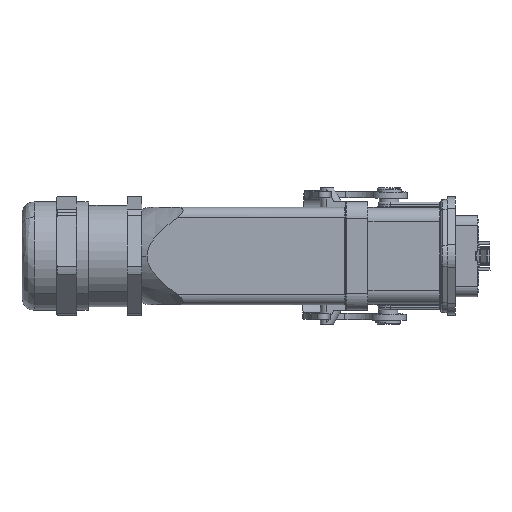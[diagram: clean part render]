
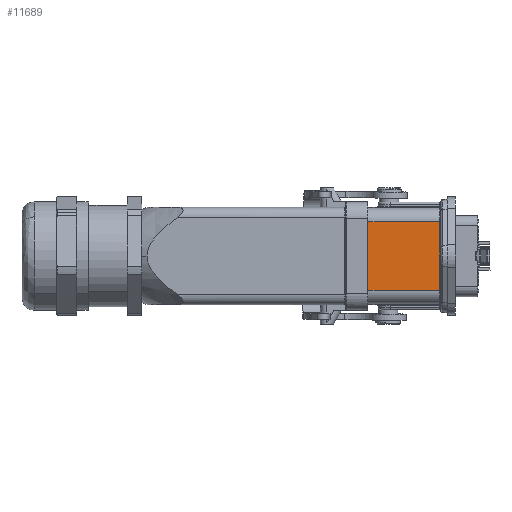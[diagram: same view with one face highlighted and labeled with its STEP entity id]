
A CAD part, left-side view. The second image highlights one B-rep face of the part: STEP entity #11689.
In plain terms, the highlighted planar face has unit normal (-1, 0, 0).
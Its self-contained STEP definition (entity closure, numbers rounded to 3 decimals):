
#286 = CARTESIAN_POINT ( 'NONE',  ( -12., 22., 8.426 ) ) ;
#361 = EDGE_CURVE ( 'NONE', #30930, #32385, #62935, .T. ) ;
#1605 = EDGE_CURVE ( 'NONE', #43480, #30930, #65692, .T. ) ;
#2746 = CARTESIAN_POINT ( 'NONE',  ( -12., 2.5, -12. ) ) ;
#2759 = CARTESIAN_POINT ( 'NONE',  ( -12., 22.086, 8.426 ) ) ;
#2967 = DIRECTION ( 'NONE',  ( 0., 0., 1. ) ) ;
#3202 = CARTESIAN_POINT ( 'NONE',  ( -12., 2.8, -12. ) ) ;
#4546 = CARTESIAN_POINT ( 'NONE',  ( -12., 2.5, -8.426 ) ) ;
#6134 = CARTESIAN_POINT ( 'NONE',  ( -12., 22., -8.426 ) ) ;
#11689 = ADVANCED_FACE ( 'NONE', ( #62843 ), #13896, .T. ) ;
#12671 = EDGE_CURVE ( 'NONE', #35997, #32385, #46742, .T. ) ;
#13896 = PLANE ( 'NONE',  #32525 ) ;
#17875 = ORIENTED_EDGE ( 'NONE', *, *, #1605, .T. ) ;
#17977 = ORIENTED_EDGE ( 'NONE', *, *, #54021, .F. ) ;
#18071 = ORIENTED_EDGE ( 'NONE', *, *, #12671, .F. ) ;
#18259 = DIRECTION ( 'NONE',  ( 0., 0., 1. ) ) ;
#21239 = VECTOR ( 'NONE', #2967, 1000. ) ;
#24995 = LINE ( 'NONE', #40849, #21239 ) ;
#28751 = VECTOR ( 'NONE', #41082, 1000. ) ;
#30930 = VERTEX_POINT ( 'NONE', #34114 ) ;
#32385 = VERTEX_POINT ( 'NONE', #47994 ) ;
#32525 = AXIS2_PLACEMENT_3D ( 'NONE', #2746, #62485, #18259 ) ;
#34114 = CARTESIAN_POINT ( 'NONE',  ( -12., 2.8, -8.426 ) ) ;
#35997 = VERTEX_POINT ( 'NONE', #286 ) ;
#40849 = CARTESIAN_POINT ( 'NONE',  ( -12., 22., 0. ) ) ;
#41082 = DIRECTION ( 'NONE',  ( 0., 0., 1. ) ) ;
#43480 = VERTEX_POINT ( 'NONE', #6134 ) ;
#46742 = LINE ( 'NONE', #2759, #53620 ) ;
#47994 = CARTESIAN_POINT ( 'NONE',  ( -12., 2.8, 8.426 ) ) ;
#48762 = VECTOR ( 'NONE', #64634, 1000. ) ;
#53439 = EDGE_LOOP ( 'NONE', ( #17875, #68507, #18071, #17977 ) ) ;
#53620 = VECTOR ( 'NONE', #56791, 1000. ) ;
#54021 = EDGE_CURVE ( 'NONE', #43480, #35997, #24995, .T. ) ;
#56791 = DIRECTION ( 'NONE',  ( 0., -1., 0. ) ) ;
#62485 = DIRECTION ( 'NONE',  ( -1., 0., 0. ) ) ;
#62843 = FACE_OUTER_BOUND ( 'NONE', #53439, .T. ) ;
#62935 = LINE ( 'NONE', #3202, #28751 ) ;
#64634 = DIRECTION ( 'NONE',  ( 0., -1., 0. ) ) ;
#65692 = LINE ( 'NONE', #4546, #48762 ) ;
#68507 = ORIENTED_EDGE ( 'NONE', *, *, #361, .T. ) ;
